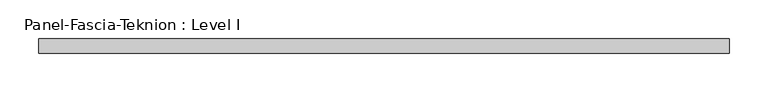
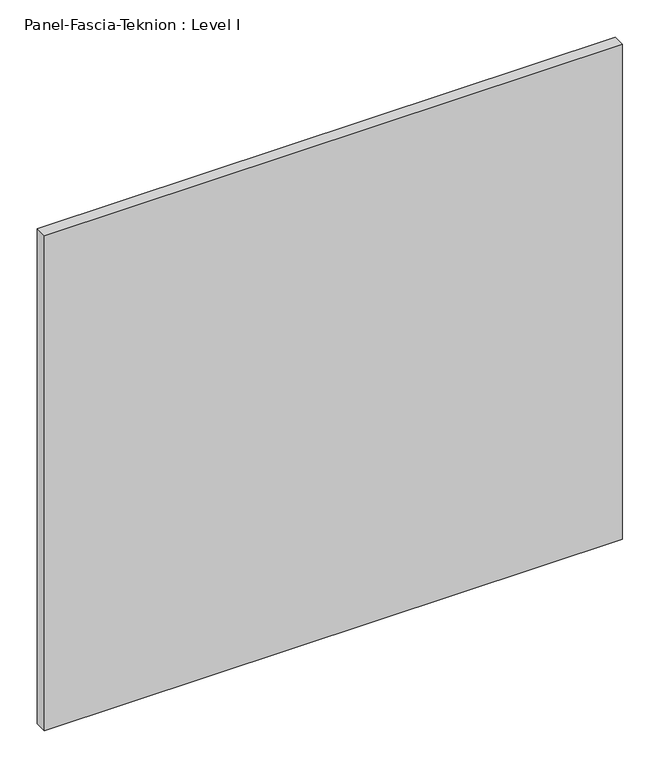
"""IFC4 building model written with IfcOpenShell, lengths in millimetres: proxy geometry, Panel-Fascia-Teknion : Level I."""

from ifc_helpers import new_model, si_unit, frame, origin, place, context, project, spatial, polyline, outline, extrude, source, transform, mapped, element, save


def panel_fascia_teknion_level_i_3c7f3a23(model_context):
    return source(origin(), model_context, "Body", "SweptSolid", [
        extrude(outline(polyline([(447.6253906, -9.525), (-447.6253906, -9.525), (-447.6253906, 9.525), (447.6253906, 9.525), (447.6253906, -9.525)])), frame((0.0, 0.0, 3.175), z_axis=(0.0, 0.0, 1.0), x_axis=(1.0, 0.0, 0.0)), (0.0, 0.0, 1.0), 810.768),
    ])


if __name__ == "__main__":
    model = new_model("IFC4")
    model_context = context("Model", 3, world=origin())
    ifc_project = project(units=[si_unit("LENGTHUNIT", "METRE", prefix="MILLI")], contexts=[model_context])
    site = spatial("IfcSite", under=ifc_project)
    building = spatial("IfcBuilding", under=site)
    placement = place(None, origin())
    panel_fascia_teknion_level_i_shape = panel_fascia_teknion_level_i_3c7f3a23(model_context)
    element("IfcBuildingElementProxy", 1, Name="Panel-Fascia-Teknion : Level I", ObjectType="Panel-Fascia-Teknion : Level I", at=placement, inside=building, context=model_context, shape_type="MappedRepresentation", body=[
        mapped(panel_fascia_teknion_level_i_shape, transform((0.0, 0.0, 0.0), x_axis=(1.0, 0.0, 0.0), y_axis=(0.0, 1.0, 0.0), z_axis=(0.0, 0.0, 1.0))),
    ])
    save(model, "model.ifc")
